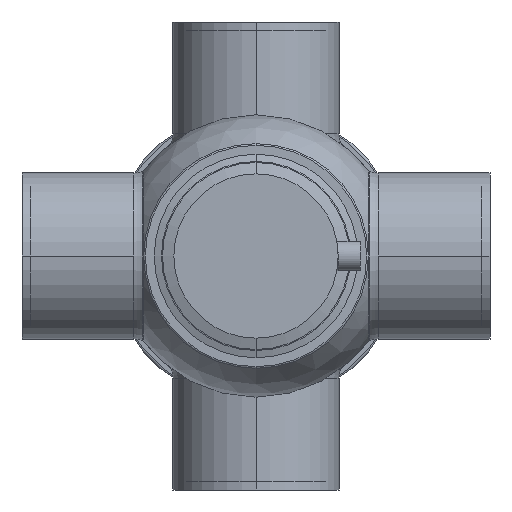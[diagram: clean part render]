
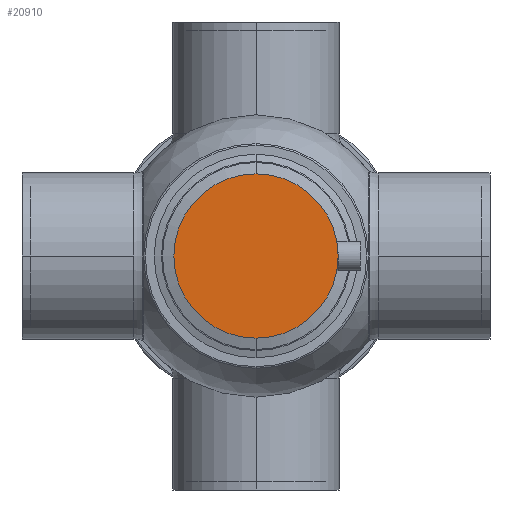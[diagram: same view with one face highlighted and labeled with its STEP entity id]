
A CAD part, front view. The second image highlights one B-rep face of the part: STEP entity #20910.
In plain terms, the highlighted planar face has unit normal (0, -1, 0) as drawn and (0, 0, -1) by its records, which use the part's own axes.
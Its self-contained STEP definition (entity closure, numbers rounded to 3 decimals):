
#12150=CARTESIAN_POINT('',(50.,34.1,-20.));
#12160=VERTEX_POINT('',#12150);
#12210=CARTESIAN_POINT('',(0.,34.1,-20.));
#12220=DIRECTION('',(0.,0.,1.));
#12230=DIRECTION('',(1.,0.,0.));
#12240=AXIS2_PLACEMENT_3D('',#12210,#12220,#12230);
#12250=CIRCLE('',#12240,50.);
#12260=CARTESIAN_POINT('',(-50.,34.1,-20.));
#12270=VERTEX_POINT('',#12260);
#12280=EDGE_CURVE('',#12270,#12160,#12250,.T.);
#20810=CARTESIAN_POINT('',(-48.25,34.1,-20.));
#20820=DIRECTION('',(0.,0.,-1.));
#20830=DIRECTION('',(-1.,0.,0.));
#20840=AXIS2_PLACEMENT_3D('',#20810,#20820,#20830);
#20850=PLANE('',#20840);
#20860=ORIENTED_EDGE('',*,*,#12280,.F.);
#20870=EDGE_CURVE('',#12160,#12270,#12250,.T.);
#20880=ORIENTED_EDGE('',*,*,#20870,.F.);
#20890=EDGE_LOOP('',(#20880,#20860));
#20900=FACE_OUTER_BOUND('',#20890,.T.);
#20910=ADVANCED_FACE('',(#20900),#20850,.T.);
